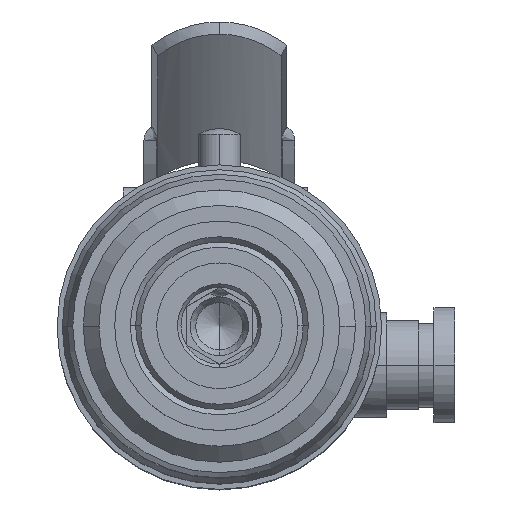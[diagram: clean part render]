
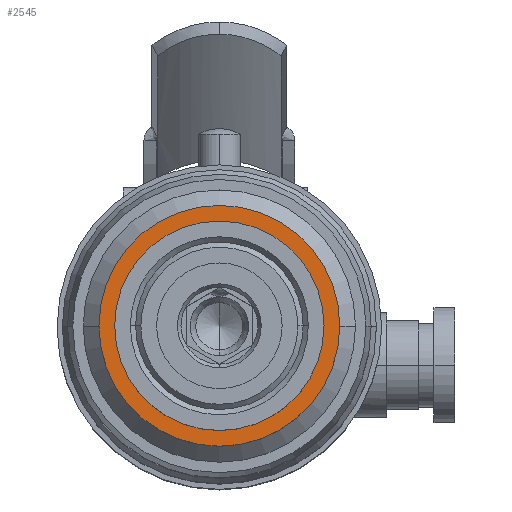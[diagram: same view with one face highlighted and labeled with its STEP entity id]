
A CAD part, top view. The second image highlights one B-rep face of the part: STEP entity #2545.
In plain terms, the highlighted planar face has unit normal (0, 0, 1).
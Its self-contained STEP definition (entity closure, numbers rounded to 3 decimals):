
#2356 = EDGE_CURVE ( 'NONE', #2357, #2358, #12823, .T. ) ;
#2357 = VERTEX_POINT ( 'NONE', #12819 ) ;
#2358 = VERTEX_POINT ( 'NONE', #12818 ) ;
#2371 = VERTEX_POINT ( 'NONE', #12863 ) ;
#2452 = VERTEX_POINT ( 'NONE', #13067 ) ;
#2454 = EDGE_CURVE ( 'NONE', #2371, #2452, #13066, .T. ) ;
#2544 = EDGE_CURVE ( 'NONE', #2452, #2371, #13187, .T. ) ;
#2545 = ADVANCED_FACE ( 'NONE', ( #13182, #13181 ), #13180, .F. ) ;
#2546 = EDGE_LOOP ( 'NONE', ( #2547, #2548 ) ) ;
#2547 = ORIENTED_EDGE ( 'NONE', *, *, #2356, .F. ) ;
#2548 = ORIENTED_EDGE ( 'NONE', *, *, #2549, .F. ) ;
#2549 = EDGE_CURVE ( 'NONE', #2358, #2357, #13175, .T. ) ;
#2550 = EDGE_LOOP ( 'NONE', ( #2551, #2552 ) ) ;
#2551 = ORIENTED_EDGE ( 'NONE', *, *, #2454, .T. ) ;
#2552 = ORIENTED_EDGE ( 'NONE', *, *, #2544, .T. ) ;
#12818 = CARTESIAN_POINT ( 'NONE',  ( -10., 0., -4. ) ) ;
#12819 = CARTESIAN_POINT ( 'NONE',  ( 10., 0., -4. ) ) ;
#12820 = DIRECTION ( 'NONE',  ( 1., 0., 0. ) ) ;
#12821 = DIRECTION ( 'NONE',  ( 0., 0., 1. ) ) ;
#12822 = AXIS2_PLACEMENT_3D ( 'NONE', #12829, #12821, #12820 ) ;
#12823 = CIRCLE ( 'NONE', #12822, 10. ) ;
#12829 = CARTESIAN_POINT ( 'NONE',  ( 0., 0., -4. ) ) ;
#12863 = CARTESIAN_POINT ( 'NONE',  ( 11.5, 0., -4. ) ) ;
#13062 = DIRECTION ( 'NONE',  ( 1., 0., 0. ) ) ;
#13063 = DIRECTION ( 'NONE',  ( 0., 0., 1. ) ) ;
#13064 = CARTESIAN_POINT ( 'NONE',  ( 0., 0., -4. ) ) ;
#13065 = AXIS2_PLACEMENT_3D ( 'NONE', #13064, #13063, #13062 ) ;
#13066 = CIRCLE ( 'NONE', #13065, 11.5 ) ;
#13067 = CARTESIAN_POINT ( 'NONE',  ( -11.5, 0., -4. ) ) ;
#13171 = DIRECTION ( 'NONE',  ( 1., 0., 0. ) ) ;
#13172 = DIRECTION ( 'NONE',  ( 0., 0., 1. ) ) ;
#13173 = CARTESIAN_POINT ( 'NONE',  ( 0., 0., -4. ) ) ;
#13174 = AXIS2_PLACEMENT_3D ( 'NONE', #13173, #13172, #13171 ) ;
#13175 = CIRCLE ( 'NONE', #13174, 10. ) ;
#13176 = DIRECTION ( 'NONE',  ( -1., 0., 0. ) ) ;
#13177 = DIRECTION ( 'NONE',  ( 0., 0., -1. ) ) ;
#13178 = CARTESIAN_POINT ( 'NONE',  ( 0., 11.5, -4. ) ) ;
#13179 = AXIS2_PLACEMENT_3D ( 'NONE', #13178, #13177, #13176 ) ;
#13180 = PLANE ( 'NONE',  #13179 ) ;
#13181 = FACE_OUTER_BOUND ( 'NONE', #2550, .T. ) ;
#13182 = FACE_BOUND ( 'NONE', #2546, .T. ) ;
#13183 = DIRECTION ( 'NONE',  ( 1., 0., 0. ) ) ;
#13184 = DIRECTION ( 'NONE',  ( 0., 0., 1. ) ) ;
#13185 = CARTESIAN_POINT ( 'NONE',  ( 0., 0., -4. ) ) ;
#13186 = AXIS2_PLACEMENT_3D ( 'NONE', #13185, #13184, #13183 ) ;
#13187 = CIRCLE ( 'NONE', #13186, 11.5 ) ;
